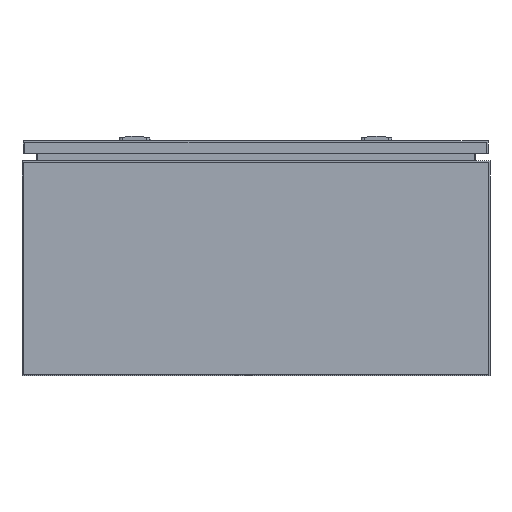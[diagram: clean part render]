
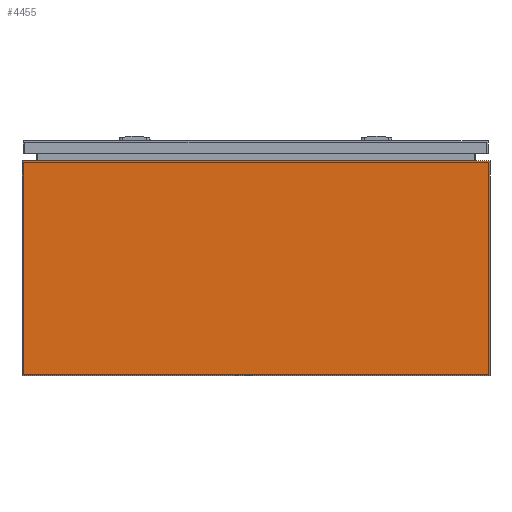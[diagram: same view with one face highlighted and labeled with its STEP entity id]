
A CAD part, left-side view. The second image highlights one B-rep face of the part: STEP entity #4455.
In plain terms, the highlighted planar face has unit normal (-1, 0, 0).
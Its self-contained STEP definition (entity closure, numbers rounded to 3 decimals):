
#390=ORIENTED_EDGE('',*,*,#1612,.T.);
#391=ORIENTED_EDGE('',*,*,#1598,.F.);
#392=ORIENTED_EDGE('',*,*,#1613,.F.);
#393=ORIENTED_EDGE('',*,*,#1614,.T.);
#1598=EDGE_CURVE('',#2208,#2209,#2643,.T.);
#1612=EDGE_CURVE('',#2218,#2209,#2657,.T.);
#1613=EDGE_CURVE('',#2219,#2208,#2658,.T.);
#1614=EDGE_CURVE('',#2219,#2218,#2659,.T.);
#2208=VERTEX_POINT('',#7089);
#2209=VERTEX_POINT('',#7091);
#2218=VERTEX_POINT('',#7119);
#2219=VERTEX_POINT('',#7121);
#2643=LINE('',#7090,#3068);
#2657=LINE('',#7118,#3082);
#2658=LINE('',#7120,#3083);
#2659=LINE('',#7122,#3084);
#3068=VECTOR('',#5720,1000.);
#3082=VECTOR('',#5744,1000.);
#3083=VECTOR('',#5745,1000.);
#3084=VECTOR('',#5746,1000.);
#3481=EDGE_LOOP('',(#390,#391,#392,#393));
#3872=FACE_BOUND('',#3481,.T.);
#4262=PLANE('',#5225);
#4455=ADVANCED_FACE('',(#3872),#4262,.F.);
#5225=AXIS2_PLACEMENT_3D('',#7117,#5742,#5743);
#5720=DIRECTION('',(0.,-1.,0.));
#5742=DIRECTION('',(1.,0.,0.));
#5743=DIRECTION('',(0.,0.,-1.));
#5744=DIRECTION('',(0.,0.,1.));
#5745=DIRECTION('',(0.,0.,1.));
#5746=DIRECTION('',(0.,-1.,0.));
#7089=CARTESIAN_POINT('',(-300.,600.,125.2));
#7090=CARTESIAN_POINT('',(-300.,600.,125.2));
#7091=CARTESIAN_POINT('',(-300.,0.,125.2));
#7117=CARTESIAN_POINT('',(-300.,600.,-150.));
#7118=CARTESIAN_POINT('',(-300.,0.,-150.));
#7119=CARTESIAN_POINT('',(-300.,0.,-150.));
#7120=CARTESIAN_POINT('',(-300.,600.,-150.));
#7121=CARTESIAN_POINT('',(-300.,600.,-150.));
#7122=CARTESIAN_POINT('',(-300.,600.,-150.));
